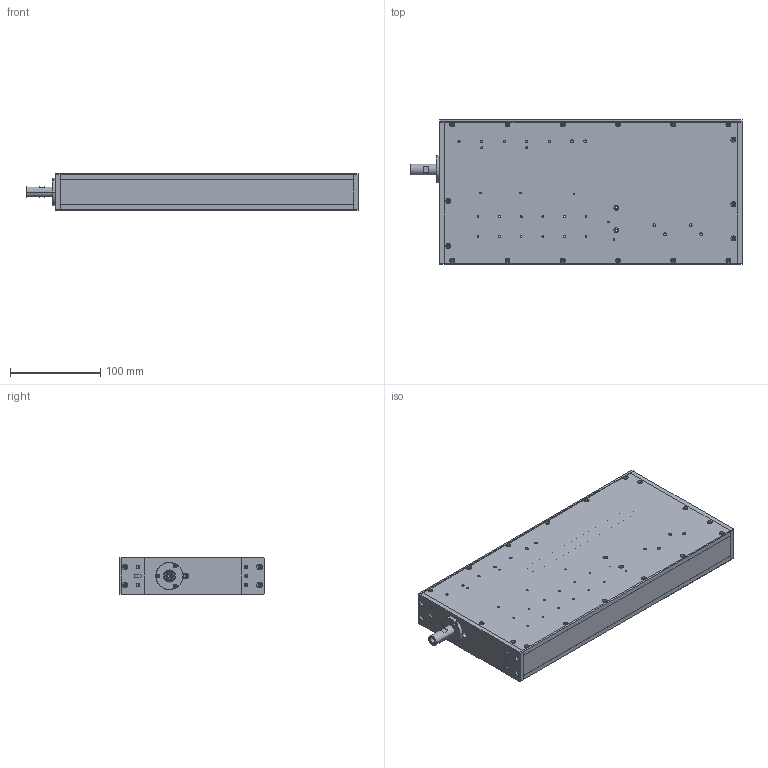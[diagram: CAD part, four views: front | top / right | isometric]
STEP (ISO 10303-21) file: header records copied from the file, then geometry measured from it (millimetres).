
FILE_DESCRIPTION (( 'STEP AP203' ), '1' );
FILE_NAME ('LBL40-050-XX-3_A STEP.STEP', '2020-12-14T18:38:03', ( '' ), ( '' ), 'SwSTEP 2.0', 'SolidWorks 2020', '' );
FILE_SCHEMA (( 'CONFIG_CONTROL_DESIGN' ));
Length unit declared in the file: millimetre
Products named in the file (14): LBL40-050-XX-3_A STEP; 110112-01_E; 110113-01_C; 56002-01, JACK SCREW, 4-40X3_16; 404071-34_B STEP; 140254-01_G; 180105-01_B; 47014-00_A; 110122-01_B; 160061-01_B; 140255-01_F; 404071-20_C DB-26 STEP; 240833-01_B; 110114-01_E
Assembly tree (14 placements, depth 4):
  LBL40-050-XX-3_A STEP
    404071-20_C DB-26 STEP
      140254-01_G
      110114-01_E
      110113-01_C
      110112-01_E
      180105-01_B
      404071-34_B STEP
        110122-01_B
        56002-01, JACK SCREW, 4-40X3_16  x2
        240833-01_B
        47014-00_A
      160061-01_B
    140255-01_F
Bounding box: 367.8 x 160 x 40 mm (x, y, z)
Volume: 780316.4 mm3; surface area: 343373.7 mm2
Topology: 12 solids, 12 shells, 1339 faces, 3374 edges, 2103 vertices
Faces by surface type: cylinder 680, plane 337, cone 312, bspline 10
Entity records: 41075 total; most frequent: CARTESIAN_POINT 8370, DIRECTION 6916, ORIENTED_EDGE 6190, EDGE_CURVE 3095, AXIS2_PLACEMENT_3D 2720, VERTEX_POINT 1981, EDGE_LOOP 1638, LINE 1476
